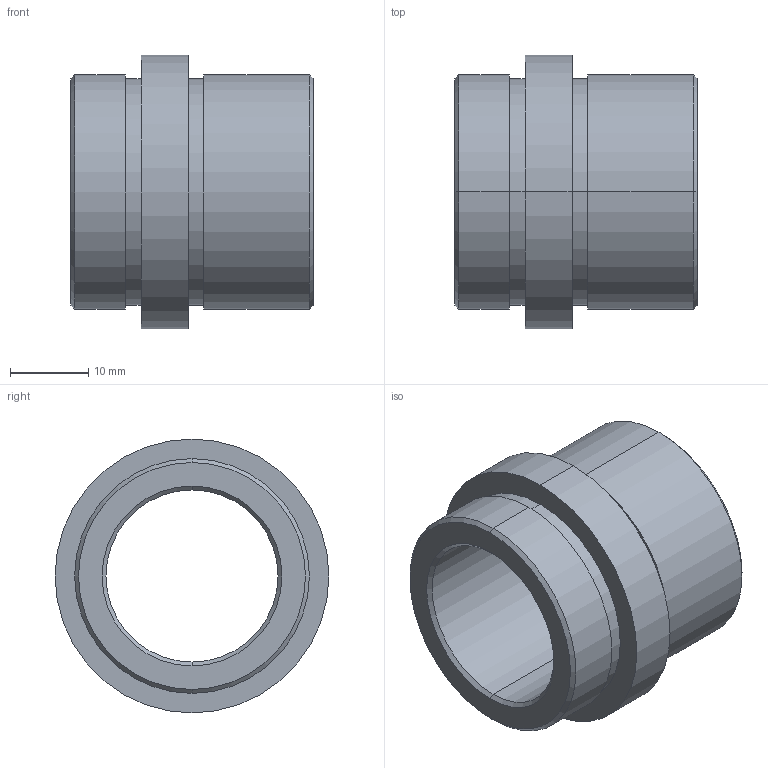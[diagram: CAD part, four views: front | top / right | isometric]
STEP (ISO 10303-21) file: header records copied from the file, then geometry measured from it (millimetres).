
FILE_DESCRIPTION( ( 'STEP AP203' ), '1' );
FILE_NAME( 'D:/Delta 3 D/D21/D21 - 22x22.step', '2002-12-31T22:45:18', ( ' ' ), ( ' ' ), 'XStep 1.0', ' ', ' ' );
FILE_SCHEMA( ( 'CONFIG_CONTROL_DESIGN' ) );
Length unit declared in the file: metre
Products named in the file (1): 1
Bounding box: 31 x 35 x 35 mm (x, y, z)
Volume: 11433.8 mm3; surface area: 6399.5 mm2
Topology: 1 solids, 1 shells, 26 faces, 52 edges, 32 vertices
Faces by surface type: revolution 20, bspline 6
Entity records: 773 total; most frequent: CARTESIAN_POINT 169, DIRECTION 106, ORIENTED_EDGE 104, EDGE_CURVE 52, AXIS2_PLACEMENT_3D 33, EDGE_LOOP 32, VERTEX_POINT 32, CIRCLE 32
